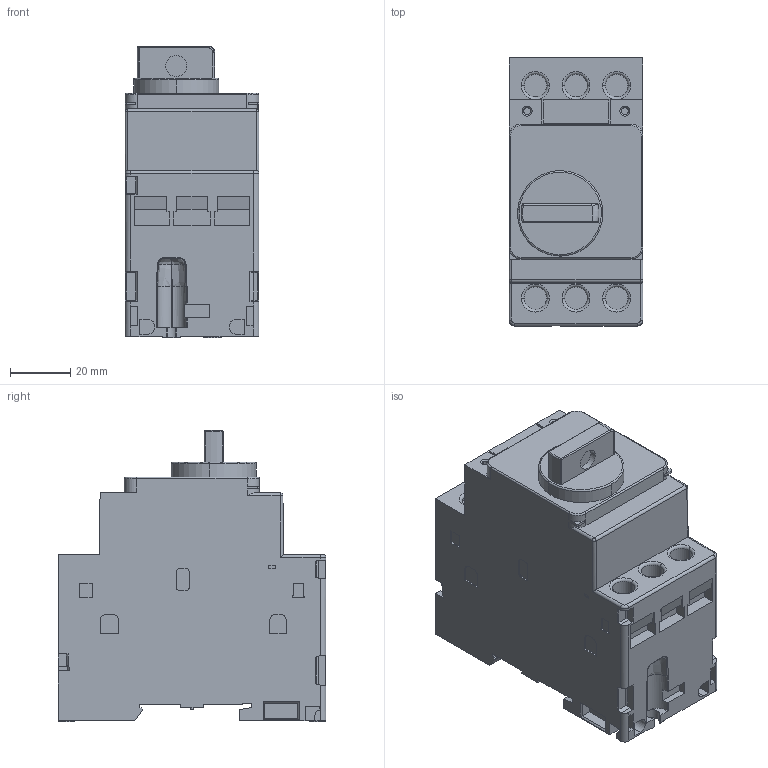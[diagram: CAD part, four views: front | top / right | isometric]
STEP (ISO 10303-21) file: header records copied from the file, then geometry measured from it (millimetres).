
FILE_DESCRIPTION((''),'2;1');
FILE_NAME('ASM0001_ASM','2021-04-20T17:26:50',('user pc'),('Schneider-Electric'),'CREO PARAMETRIC BY PTC INC, 2018300','CREO PARAMETRIC BY PTC INC, 2018300','');
FILE_SCHEMA(('CONFIG_CONTROL_DESIGN'));
Length unit declared in the file: millimetre
Products named in the file (2): 3D-GV2L_3D-SIMPLIFIED; ASM0001_ASM
Assembly tree (1 placements, depth 2):
  ASM0001_ASM
    3D-GV2L_3D-SIMPLIFIED
Bounding box: 44.5 x 89 x 96.7 mm (x, y, z)
Volume: 266650.7 mm3; surface area: 35910.1 mm2
Topology: 1 solids, 1 shells, 577 faces, 1531 edges, 988 vertices
Faces by surface type: plane 378, cylinder 140, torus 28, bspline 18, extrusion 5, sphere 4, cone 4
Entity records: 18769 total; most frequent: CARTESIAN_POINT 4284, ORIENTED_EDGE 3062, DIRECTION 2906, EDGE_CURVE 1531, VECTOR 1128, LINE 1123, VERTEX_POINT 988, AXIS2_PLACEMENT_3D 889
